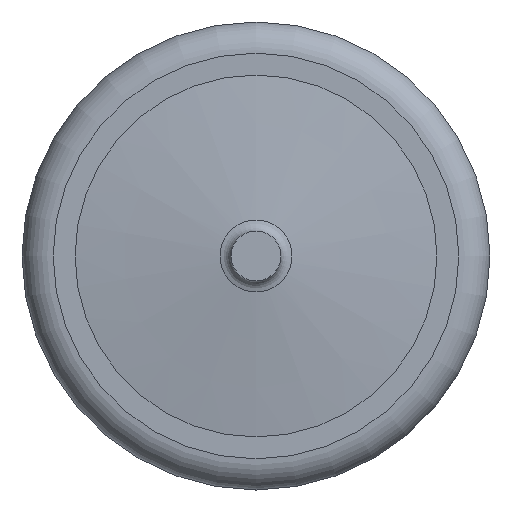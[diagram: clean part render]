
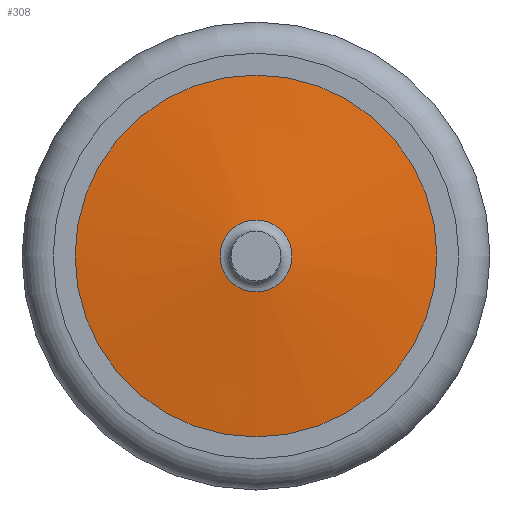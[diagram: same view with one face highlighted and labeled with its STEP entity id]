
A CAD part, left-side view. The second image highlights one B-rep face of the part: STEP entity #308.
In plain terms, the highlighted conical face has half-angle 83.157 degrees and reference radius 1.65 mm.
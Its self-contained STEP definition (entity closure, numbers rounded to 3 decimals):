
#14=CONICAL_SURFACE('',#349,1.65,83.157);
#38=FACE_BOUND('',#96,.T.);
#63=FACE_OUTER_BOUND('',#95,.T.);
#95=EDGE_LOOP('',(#225));
#96=EDGE_LOOP('',(#226));
#142=CIRCLE('',#348,0.576);
#143=CIRCLE('',#350,2.9);
#168=VERTEX_POINT('',#515);
#169=VERTEX_POINT('',#518);
#194=EDGE_CURVE('',#168,#168,#142,.T.);
#195=EDGE_CURVE('',#169,#169,#143,.T.);
#225=ORIENTED_EDGE('',*,*,#195,.T.);
#226=ORIENTED_EDGE('',*,*,#194,.F.);
#308=ADVANCED_FACE('',(#63,#38),#14,.T.);
#348=AXIS2_PLACEMENT_3D('',#516,#413,#414);
#349=AXIS2_PLACEMENT_3D('',#517,#415,#416);
#350=AXIS2_PLACEMENT_3D('',#519,#417,#418);
#413=DIRECTION('center_axis',(-1.,0.,0.));
#414=DIRECTION('ref_axis',(0.,0.,
-1.));
#415=DIRECTION('center_axis',(1.,0.,0.));
#416=DIRECTION('ref_axis',(0.,0.,-1.));
#417=DIRECTION('center_axis',(-1.,0.,0.));
#418=DIRECTION('ref_axis',(0.,0.,-1.));
#515=CARTESIAN_POINT('',(-9.279,0.,0.576));
#516=CARTESIAN_POINT('Origin',(-9.279,0.,0.));
#517=CARTESIAN_POINT('Origin',(-9.15,0.,0.));
#518=CARTESIAN_POINT('',(-9.,0.,2.9));
#519=CARTESIAN_POINT('Origin',(-9.,0.,0.));
